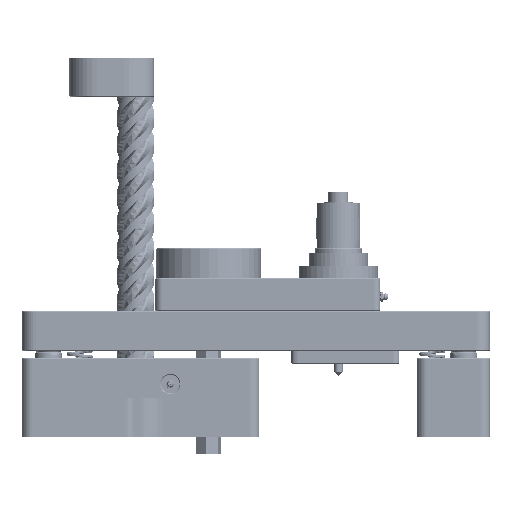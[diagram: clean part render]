
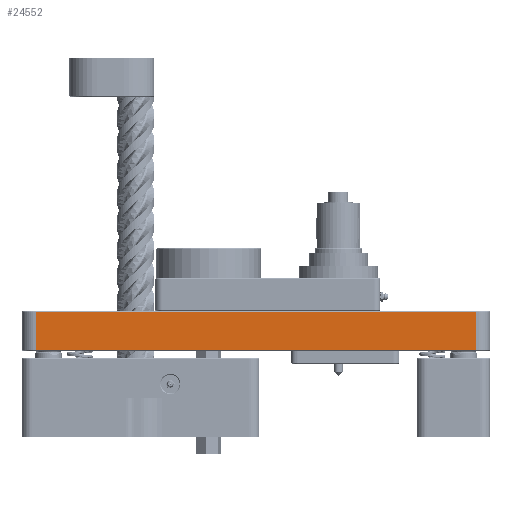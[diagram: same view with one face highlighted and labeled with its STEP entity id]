
A CAD part, front view. The second image highlights one B-rep face of the part: STEP entity #24552.
In plain terms, the highlighted planar face has unit normal (0, -1, 0) as drawn and (0, 1, 0) by its records, which use the part's own axes.
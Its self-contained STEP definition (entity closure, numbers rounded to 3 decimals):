
#1274=LINE('',#77620,#2164);
#1275=LINE('',#77623,#2165);
#1276=LINE('',#77625,#2166);
#1277=LINE('',#77627,#2167);
#2164=VECTOR('',#30281,1000.);
#2165=VECTOR('',#30282,1000.);
#2166=VECTOR('',#30283,1000.);
#2167=VECTOR('',#30284,1000.);
#2781=PLANE('',#26346);
#6964=ORIENTED_EDGE('',*,*,#9986,.T.);
#6965=ORIENTED_EDGE('',*,*,#9987,.T.);
#6966=ORIENTED_EDGE('',*,*,#9988,.T.);
#6967=ORIENTED_EDGE('',*,*,#9989,.T.);
#9986=EDGE_CURVE('',#11928,#11929,#1274,.F.);
#9987=EDGE_CURVE('',#11929,#11930,#1275,.F.);
#9988=EDGE_CURVE('',#11930,#11931,#1276,.T.);
#9989=EDGE_CURVE('',#11931,#11928,#1277,.T.);
#11928=VERTEX_POINT('',#77621);
#11929=VERTEX_POINT('',#77622);
#11930=VERTEX_POINT('',#77624);
#11931=VERTEX_POINT('',#77626);
#14412=EDGE_LOOP('',(#6964,#6965,#6966,#6967));
#16241=FACE_BOUND('',#14412,.T.);
#24552=ADVANCED_FACE('',(#16241),#2781,.F.);
#26346=AXIS2_PLACEMENT_3D('',#77619,#30279,#30280);
#30279=DIRECTION('',(0.,-1.,0.));
#30280=DIRECTION('',(1.,0.,0.));
#30281=DIRECTION('',(0.,0.,1.));
#30282=DIRECTION('',(1.,0.,0.));
#30283=DIRECTION('',(0.,0.,1.));
#30284=DIRECTION('',(1.,0.,0.));
#77619=CARTESIAN_POINT('',(231.775,50.8,24.638));
#77620=CARTESIAN_POINT('',(306.794,50.8,24.638));
#77621=CARTESIAN_POINT('',(306.794,50.8,36.544));
#77622=CARTESIAN_POINT('',(306.794,50.8,0.794));
#77623=CARTESIAN_POINT('',(231.775,50.8,0.794));
#77624=CARTESIAN_POINT('',(-105.799,50.8,0.794));
#77625=CARTESIAN_POINT('',(-105.799,50.8,24.638));
#77626=CARTESIAN_POINT('',(-105.799,50.8,36.544));
#77627=CARTESIAN_POINT('',(88.9,50.8,36.544));
